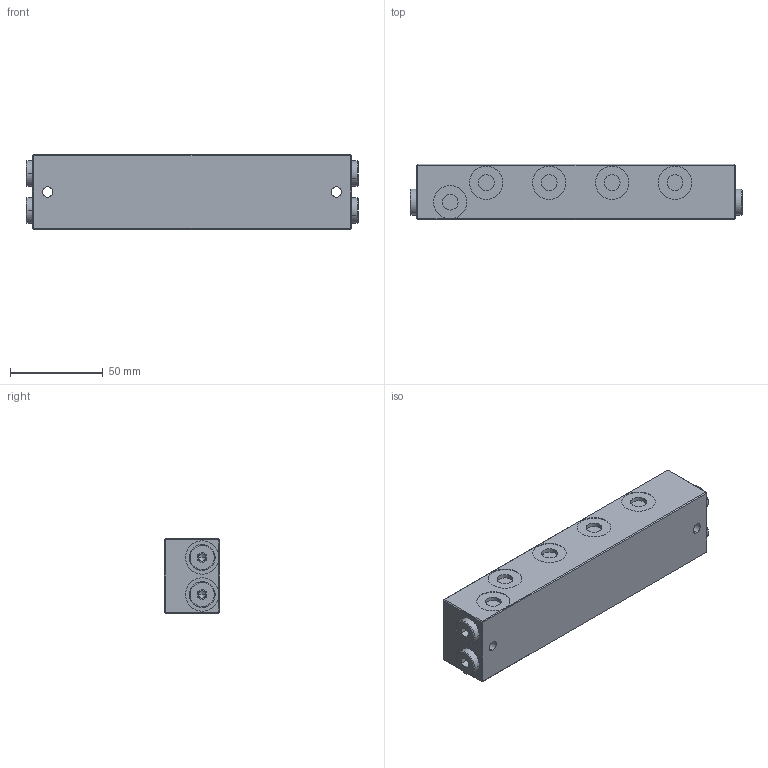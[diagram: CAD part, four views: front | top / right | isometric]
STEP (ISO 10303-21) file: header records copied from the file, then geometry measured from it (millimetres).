
FILE_DESCRIPTION (( 'STEP AP214' ), '1' );
FILE_NAME ('B3_4.STEP', '2017-05-01T13:23:53', ( '' ), ( '' ), 'SwSTEP 2.0', 'SolidWorks 2016', '' );
FILE_SCHEMA (( 'AUTOMOTIVE_DESIGN' ));
Length unit declared in the file: millimetre
Products named in the file (1): B3_4
Bounding box: 179.4 x 30 x 40 mm (x, y, z)
Volume: 203849.2 mm3; surface area: 31373.4 mm2
Topology: 5 solids, 9 shells, 310 faces, 656 edges, 422 vertices
Faces by surface type: cylinder 156, plane 130, cone 16, torus 8
Entity records: 11480 total; most frequent: DIRECTION 1636, CARTESIAN_POINT 1389, ORIENTED_EDGE 1312, AXIS2_PLACEMENT_3D 669, EDGE_CURVE 656, VERTEX_POINT 422, EDGE_LOOP 388, CIRCLE 358
